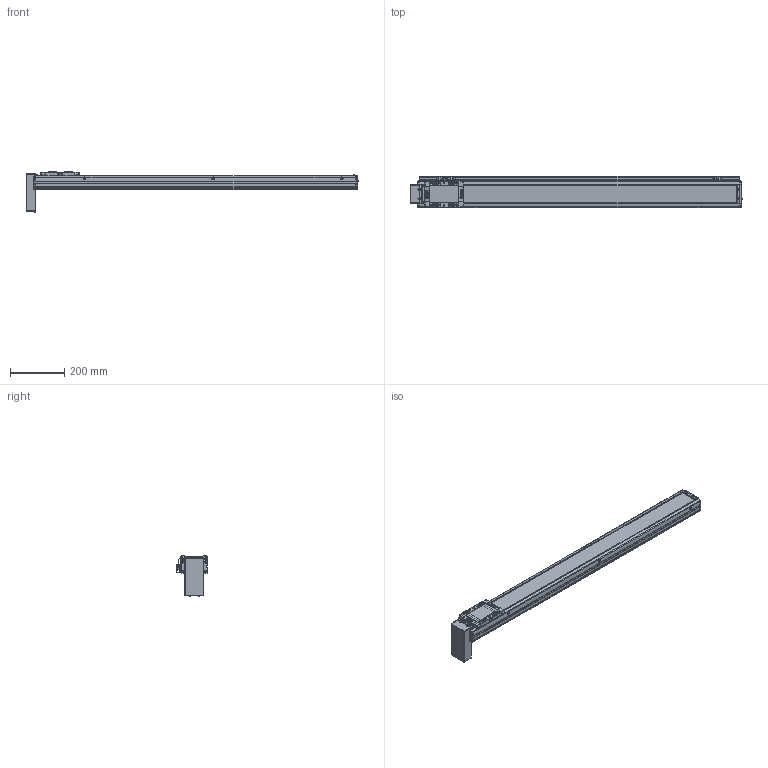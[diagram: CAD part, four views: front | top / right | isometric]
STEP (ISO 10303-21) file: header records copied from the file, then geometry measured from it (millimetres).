
FILE_DESCRIPTION(('STEP AP214'),'1');
FILE_NAME('Z:/Web/3D/SAN100/SAN100 양산용 (STEP)/SAN100ㅁㅁ-1000PB+3SL.stp','2013-04-30T05:22:59',(' '),(' '),'Spatial InterOp 3D',' ',' ');
FILE_SCHEMA(('automotive_design'));
Length unit declared in the file: millimetre
Products named in the file (57): SGD-SAN100; M3.0 x 6.0; SRL-16x17-380L; EE-SX674; SBK-SX674-352; 스크루 : Round - M3.0 x 6.0; BTCV-SAN100; 스크루 : Round - M4.0 x 10.0; FRCV-SAN100; SUS COVER; SFX-SAN100; RRCV-SAN100; FRBL-SAN100; SLBL-SAN100; SLCV-SAN100; 스크루 : Countersunk - M3.0 x 6.0; BASE; 스크루 : Round - M5.0 x 6.0
Bounding box: 1226.5 x 116 x 148.36 mm (x, y, z)
Volume: 3591993.7 mm3; surface area: 933511.4 mm2
Topology: 57 solids, 62 shells, 2677 faces, 6952 edges, 4491 vertices
Faces by surface type: plane 1400, cylinder 921, cone 238, sphere 76, torus 30, bspline 12
Entity records: 105310 total; most frequent: CARTESIAN_POINT 15587, DIRECTION 14717, ORIENTED_EDGE 13692, EDGE_CURVE 6846, AXIS2_PLACEMENT_3D 5274, VERTEX_POINT 4491, LINE 4169, VECTOR 4169
